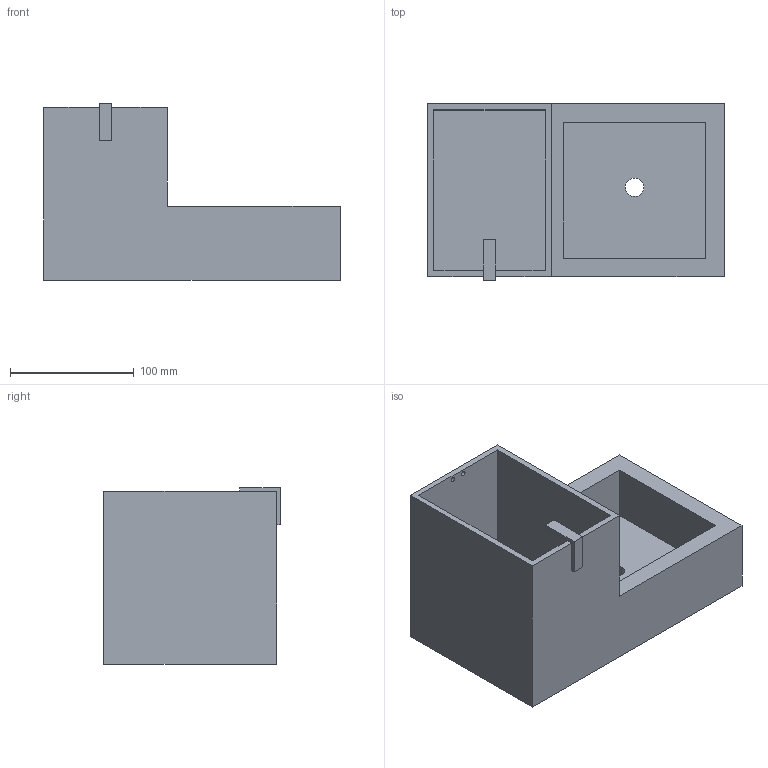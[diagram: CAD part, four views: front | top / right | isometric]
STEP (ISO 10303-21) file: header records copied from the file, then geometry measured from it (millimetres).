
FILE_DESCRIPTION(/* description */ ('STEP AP242 Edition 2','CAx-IF Rec.Pracs.---Representation and Presentation of Product Manufacturing Information (PMI)---4.0---2014-10-13','CAx-IF Rec.Pracs.---3D Tessellated Geometry---0.4---2014-09-14','2;1','CAx-IF Rec.Pracs.---User Defined Attributes---1.5---2016-08-15'),/* implementation_level */ '2;1');
FILE_NAME(/* name */ 'Part Studio 1 - Part 1',/* time_stamp */ '2026-06-01T06:01:17Z',/* author */ (''),/* organization */ (''),/* preprocessor_version */ 'ST-DEVELOPER v20',/* originating_system */ 'ONSHAPE BY PTC INC, 1.215',/* authorisation */ ' ');
FILE_SCHEMA (('AP242_MANAGED_MODEL_BASED_3D_ENGINEERING_MIM_LF { 1 0 10303 442 3 1 4 }'));
Length unit declared in the file: metre
Products named in the file (1): Part 1
Bounding box: 240 x 143 x 143 mm (x, y, z)
Volume: 986273.6 mm3; surface area: 232258.8 mm2
Topology: 1 solids, 1 shells, 28 faces, 73 edges, 48 vertices
Faces by surface type: plane 25, cylinder 3
Full cylindrical faces by diameter (mm): 4 x2, 15 x1
Entity records: 866 total; most frequent: CARTESIAN_POINT 147, ORIENTED_EDGE 140, DIRECTION 134, EDGE_CURVE 70, LINE 64, VECTOR 64, VERTEX_POINT 48, EDGE_LOOP 38
